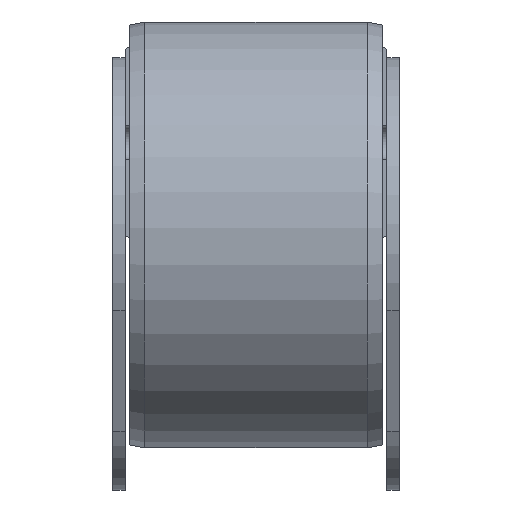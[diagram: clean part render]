
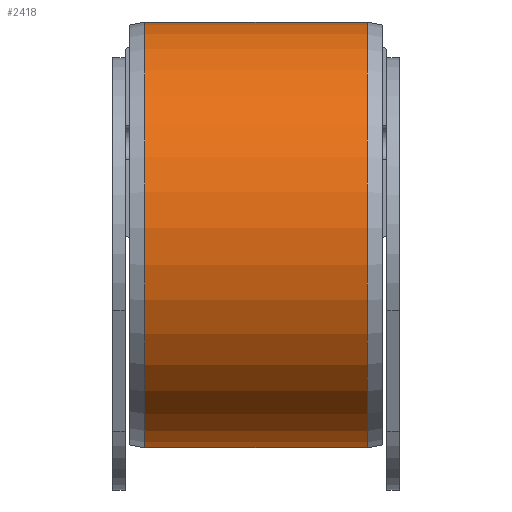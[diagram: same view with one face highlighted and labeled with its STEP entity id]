
A CAD part, front view. The second image highlights one B-rep face of the part: STEP entity #2418.
In plain terms, the highlighted cylindrical face has radius 70 mm (diameter 140 mm), a partial arc.
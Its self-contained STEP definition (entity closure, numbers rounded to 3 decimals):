
#2224=CARTESIAN_POINT('',(56.145,-41.189,420.749));
#2225=VERTEX_POINT('',#2224);
#2255=CARTESIAN_POINT('',(129.145,-41.189,420.749));
#2256=VERTEX_POINT('',#2255);
#2263=CARTESIAN_POINT('',(56.145,-41.189,420.749));
#2264=DIRECTION('',(1.0,0.0,0.0));
#2265=VECTOR('',#2264,73.0);
#2266=LINE('',#2263,#2265);
#2267=EDGE_CURVE('',#2225,#2256,#2266,.T.);
#2367=CARTESIAN_POINT('',(56.145,96.112,440.0));
#2368=VERTEX_POINT('',#2367);
#2369=CARTESIAN_POINT('',(56.145,26.112,440.0));
#2370=DIRECTION('',(1.0,0.0,0.0));
#2371=DIRECTION('',(0.0,1.0,0.0));
#2372=AXIS2_PLACEMENT_3D('',#2369,#2370,#2371);
#2373=CIRCLE('',#2372,70.0);
#2374=EDGE_CURVE('',#2368,#2225,#2373,.T.);
#2394=CARTESIAN_POINT('',(92.645,26.112,440.0));
#2395=DIRECTION('',(1.0,0.0,0.0));
#2396=DIRECTION('',(0.0,1.0,0.0));
#2397=AXIS2_PLACEMENT_3D('',#2394,#2395,#2396);
#2398=CYLINDRICAL_SURFACE('',#2397,70.0);
#2399=ORIENTED_EDGE('',*,*,#2267,.T.);
#2400=CARTESIAN_POINT('',(129.145,96.112,440.0));
#2401=VERTEX_POINT('',#2400);
#2402=CARTESIAN_POINT('',(129.145,26.112,440.0));
#2403=DIRECTION('',(1.0,0.0,0.0));
#2404=DIRECTION('',(0.0,1.0,0.0));
#2405=AXIS2_PLACEMENT_3D('',#2402,#2403,#2404);
#2406=CIRCLE('',#2405,70.0);
#2407=EDGE_CURVE('',#2401,#2256,#2406,.T.);
#2408=ORIENTED_EDGE('',*,*,#2407,.F.);
#2409=CARTESIAN_POINT('',(56.145,96.112,440.0));
#2410=DIRECTION('',(1.0,0.0,0.0));
#2411=VECTOR('',#2410,73.0);
#2412=LINE('',#2409,#2411);
#2413=EDGE_CURVE('',#2368,#2401,#2412,.T.);
#2414=ORIENTED_EDGE('',*,*,#2413,.F.);
#2415=ORIENTED_EDGE('',*,*,#2374,.T.);
#2416=EDGE_LOOP('',(#2399,#2408,#2414,#2415));
#2417=FACE_OUTER_BOUND('',#2416,.T.);
#2418=ADVANCED_FACE('',(#2417),#2398,.T.);
